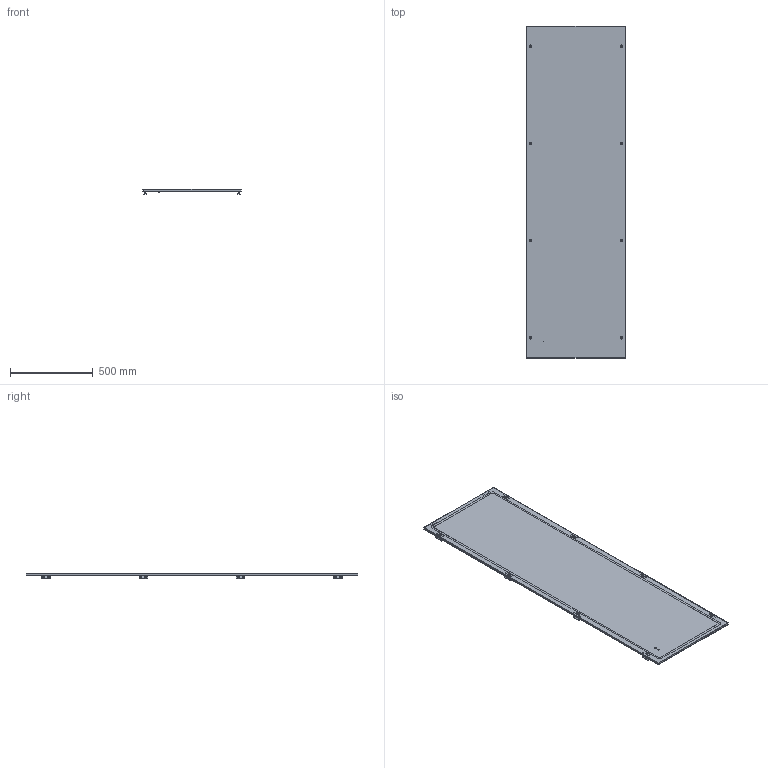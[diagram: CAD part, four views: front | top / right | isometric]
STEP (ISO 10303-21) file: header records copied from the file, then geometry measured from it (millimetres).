
FILE_DESCRIPTION (( 'STEP AP214' ), '1' );
FILE_NAME ('YKM40D-FO-FP-200-060-54 Ïàíåëü çàäíÿÿ 2000õ600 ìì IP54.STEP', '2025-08-21T13:06:20', ( '' ), ( '' ), 'SwSTEP 2.0', 'SolidWorks 2023', '' );
FILE_SCHEMA (( 'AUTOMOTIVE_DESIGN' ));
Length unit declared in the file: millimetre
Products named in the file (1): YKM40D-FO-FP-200-060-54 Панель задняя 2000х600 мм IP54
Bounding box: 595 x 2000 x 32.02 mm (x, y, z)
Volume: 2014993.4 mm3; surface area: 2647650.1 mm2
Topology: 1 solids, 1 shells, 1361 faces, 3658 edges, 2342 vertices
Faces by surface type: plane 697, cylinder 466, cone 194, torus 4
Entity records: 42673 total; most frequent: DIRECTION 7596, CARTESIAN_POINT 7362, ORIENTED_EDGE 7316, EDGE_CURVE 3658, AXIS2_PLACEMENT_3D 2576, LINE 2444, VECTOR 2444, VERTEX_POINT 2342
